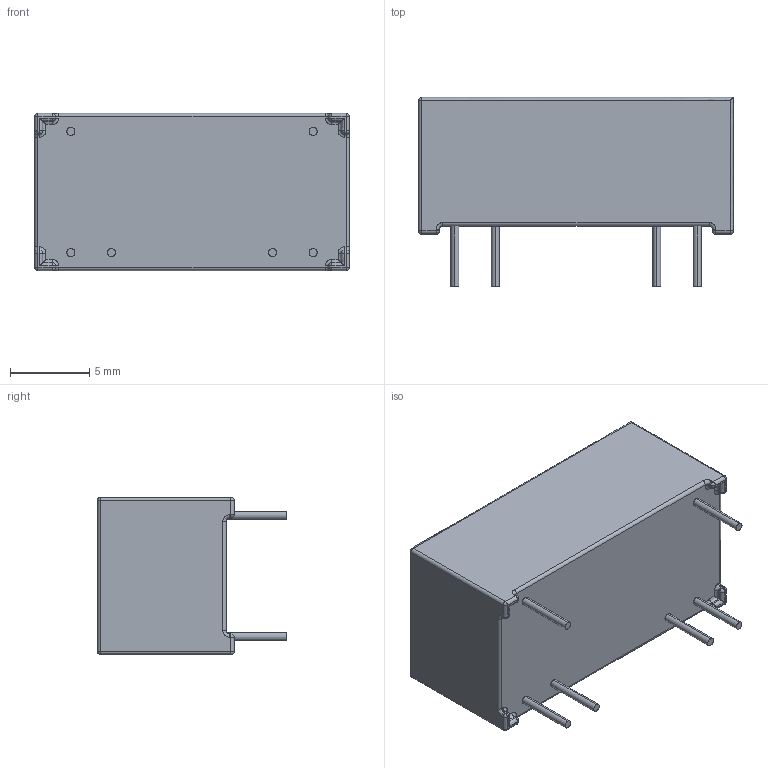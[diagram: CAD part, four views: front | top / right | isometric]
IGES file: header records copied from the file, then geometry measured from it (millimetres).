
Start section: SolidWorks IGES file using analytic representation for surfaces
Global section: file name: C:\Documents and Settings\alex.leming\Desktop\Replacement Models\98-1-A.IGS; native system: SolidWorks 2009; preprocessor: SolidWorks 2009; author: alex.leming; date: 101126.151608; units: millimetre
Bounding box: 19.8 x 11.9 x 9.9 mm (x, y, z)
Surface area: 905.2 mm2 (no closed solid volume)
Topology: 0 solids, 0 shells, 918 faces, 8462 edges, 8440 vertices
Faces by surface type: bspline 815, revolution 103
